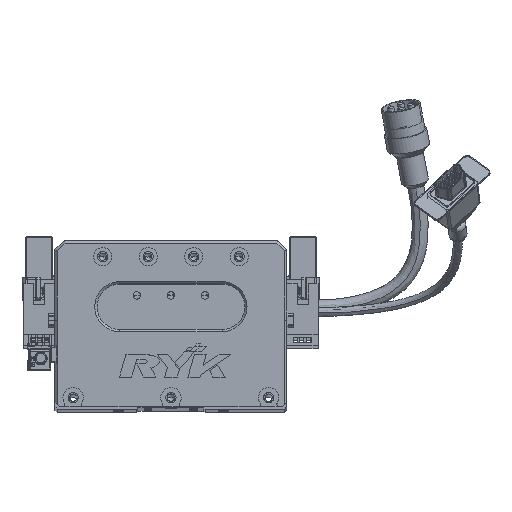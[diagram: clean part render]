
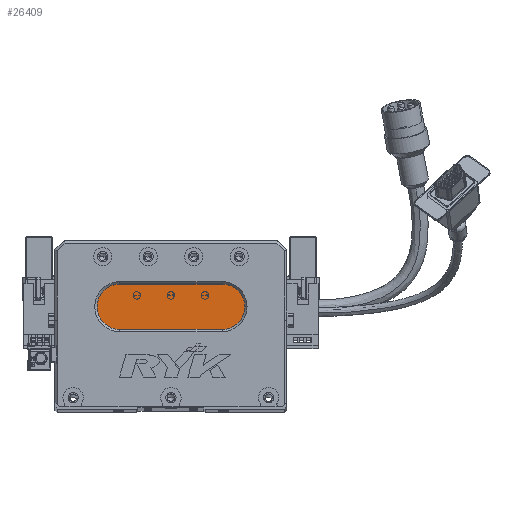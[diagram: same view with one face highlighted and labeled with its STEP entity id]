
A CAD part, top view. The second image highlights one B-rep face of the part: STEP entity #26409.
In plain terms, the highlighted planar face has unit normal (0, 0, 1) as drawn and (0, 0, -1) by its records, which use the part's own axes.
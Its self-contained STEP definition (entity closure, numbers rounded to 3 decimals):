
#1652 = DIRECTION ( 'NONE',  ( -1., 0., 0. ) ) ;
#2096 = PLANE ( 'NONE',  #30138 ) ;
#2910 = VERTEX_POINT ( 'NONE', #45703 ) ;
#4557 = VECTOR ( 'NONE', #48431, 1000. ) ;
#5510 = AXIS2_PLACEMENT_3D ( 'NONE', #29033, #64586, #34160 ) ;
#6121 = EDGE_CURVE ( 'NONE', #52897, #57566, #65434, .T. ) ;
#8496 = DIRECTION ( 'NONE',  ( 0., 0., -1. ) ) ;
#13597 = ORIENTED_EDGE ( 'NONE', *, *, #50363, .T. ) ;
#19611 = AXIS2_PLACEMENT_3D ( 'NONE', #52264, #37160, #1652 ) ;
#20186 = CARTESIAN_POINT ( 'NONE',  ( 73.5, 34., 13. ) ) ;
#23722 = LINE ( 'NONE', #58824, #4557 ) ;
#24052 = DIRECTION ( 'NONE',  ( -1., 0., 0. ) ) ;
#26132 = CARTESIAN_POINT ( 'NONE',  ( 18.5, 44., 13. ) ) ;
#26409 = ADVANCED_FACE ( 'NONE', ( #49011 ), #2096, .T. ) ;
#29033 = CARTESIAN_POINT ( 'NONE',  ( 28.5, 44., 13. ) ) ;
#30138 = AXIS2_PLACEMENT_3D ( 'NONE', #63334, #42939, #63109 ) ;
#33298 = CARTESIAN_POINT ( 'NONE',  ( 73.5, 54., 13. ) ) ;
#33933 = ORIENTED_EDGE ( 'NONE', *, *, #50549, .T. ) ;
#34160 = DIRECTION ( 'NONE',  ( -1., 0., 0. ) ) ;
#37160 = DIRECTION ( 'NONE',  ( 0., 0., -1. ) ) ;
#37538 = AXIS2_PLACEMENT_3D ( 'NONE', #59433, #8496, #24052 ) ;
#37963 = CIRCLE ( 'NONE', #5510, 10. ) ;
#40650 = DIRECTION ( 'NONE',  ( -1., 0., 0. ) ) ;
#40894 = CARTESIAN_POINT ( 'NONE',  ( 73.5, 34., 13. ) ) ;
#41793 = ORIENTED_EDGE ( 'NONE', *, *, #6121, .T. ) ;
#41843 = ORIENTED_EDGE ( 'NONE', *, *, #51350, .T. ) ;
#42939 = DIRECTION ( 'NONE',  ( 0., 0., -1. ) ) ;
#43136 = CIRCLE ( 'NONE', #37538, 10. ) ;
#45329 = VECTOR ( 'NONE', #40650, 1000. ) ;
#45703 = CARTESIAN_POINT ( 'NONE',  ( 28.5, 54., 13. ) ) ;
#47467 = EDGE_CURVE ( 'NONE', #66005, #2910, #43136, .T. ) ;
#48431 = DIRECTION ( 'NONE',  ( 1., 0., 0. ) ) ;
#49011 = FACE_OUTER_BOUND ( 'NONE', #52553, .T. ) ;
#49277 = LINE ( 'NONE', #20186, #45329 ) ;
#50363 = EDGE_CURVE ( 'NONE', #57566, #60806, #49277, .T. ) ;
#50549 = EDGE_CURVE ( 'NONE', #2910, #52897, #23722, .T. ) ;
#51350 = EDGE_CURVE ( 'NONE', #60806, #66005, #37963, .T. ) ;
#52264 = CARTESIAN_POINT ( 'NONE',  ( 73.5, 44., 13. ) ) ;
#52553 = EDGE_LOOP ( 'NONE', ( #41793, #13597, #41843, #62270, #33933 ) ) ;
#52897 = VERTEX_POINT ( 'NONE', #33298 ) ;
#57331 = CARTESIAN_POINT ( 'NONE',  ( 28.5, 34., 13. ) ) ;
#57566 = VERTEX_POINT ( 'NONE', #40894 ) ;
#58824 = CARTESIAN_POINT ( 'NONE',  ( 73.5, 54., 13. ) ) ;
#59433 = CARTESIAN_POINT ( 'NONE',  ( 28.5, 44., 13. ) ) ;
#60806 = VERTEX_POINT ( 'NONE', #57331 ) ;
#62270 = ORIENTED_EDGE ( 'NONE', *, *, #47467, .T. ) ;
#63109 = DIRECTION ( 'NONE',  ( -1., 0., 0. ) ) ;
#63334 = CARTESIAN_POINT ( 'NONE',  ( 73.5, 44., 13. ) ) ;
#64586 = DIRECTION ( 'NONE',  ( 0., 0., -1. ) ) ;
#65434 = CIRCLE ( 'NONE', #19611, 10. ) ;
#66005 = VERTEX_POINT ( 'NONE', #26132 ) ;
